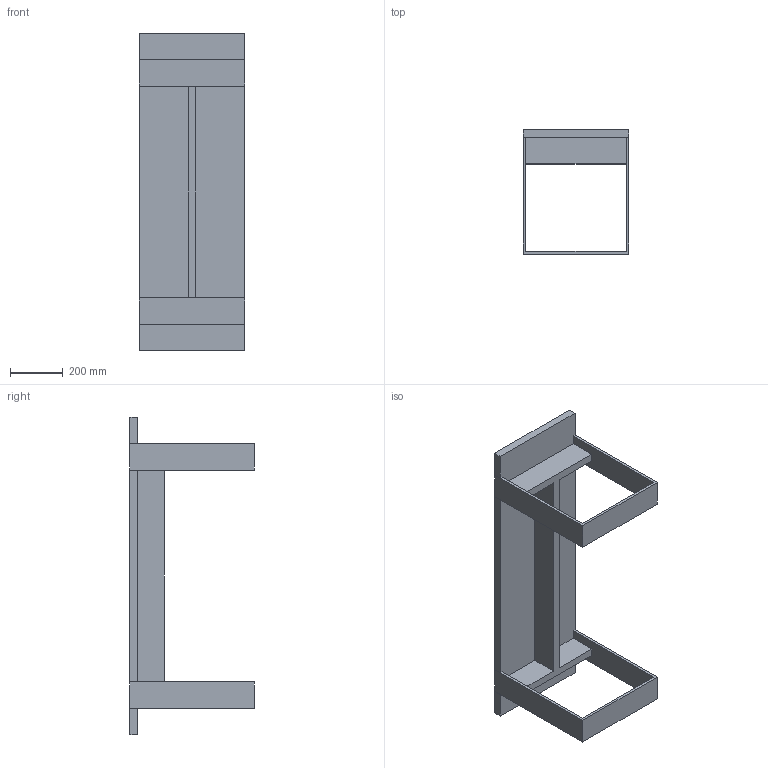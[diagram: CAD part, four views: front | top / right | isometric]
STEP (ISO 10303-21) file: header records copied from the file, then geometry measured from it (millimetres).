
FILE_DESCRIPTION (( 'STEP AP203' ), '1' );
FILE_NAME ('Haag bench 1200x400.STEP', '2019-04-02T14:02:50', ( '' ), ( '' ), 'SwSTEP 2.0', 'SolidWorks 2019', '' );
FILE_SCHEMA (( 'CONFIG_CONTROL_DESIGN' ));
Length unit declared in the file: millimetre
Products named in the file (1): Haag bench 1200x400
Bounding box: 400 x 470 x 1200 mm (x, y, z)
Volume: 21810000 mm3; surface area: 2239400 mm2
Topology: 4 solids, 4 shells, 56 faces, 144 edges, 96 vertices
Faces by surface type: plane 56
Entity records: 1747 total; most frequent: CARTESIAN_POINT 297, ORIENTED_EDGE 288, DIRECTION 258, VECTOR 144, EDGE_CURVE 144, LINE 144, VERTEX_POINT 96, EDGE_LOOP 60
